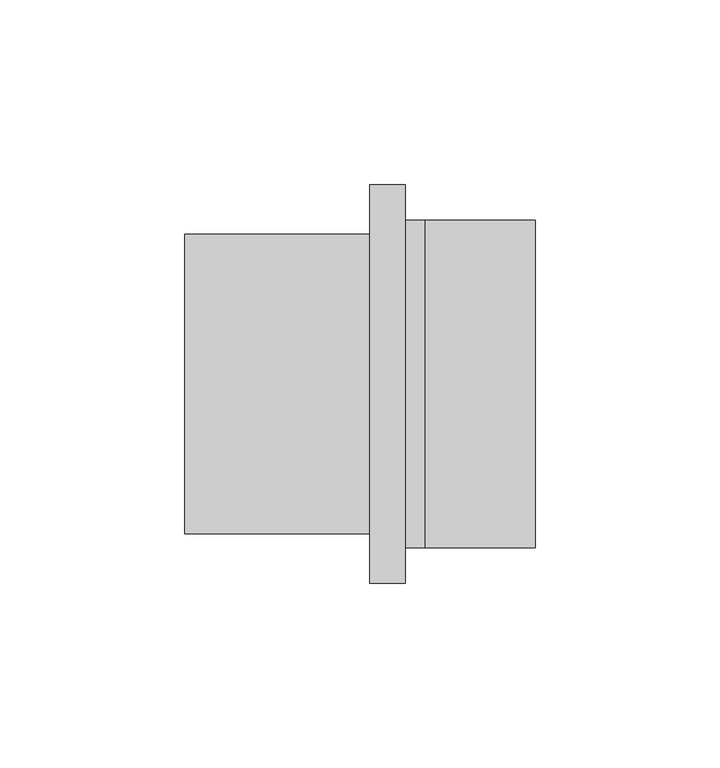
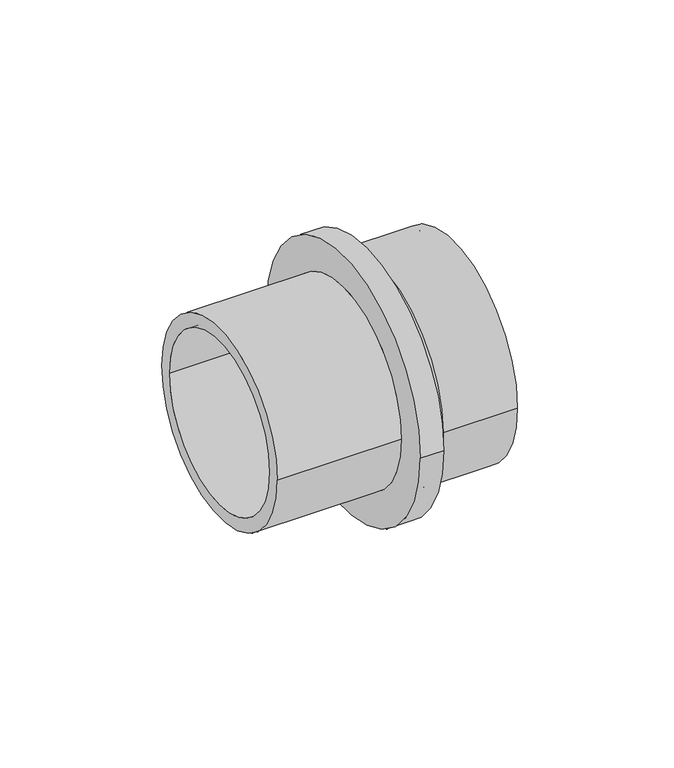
"""IFC4 building model written with IfcOpenShell, lengths in millimetres: pipe fitting geometry, Adapter with welding end : A welding RX."""

from ifc_helpers import new_model, si_unit, point, frame, origin, origin_2d, place, context, project, spatial, polyline, circle_curve, trimmed, segment, composite_curve, outline, extrude, source, transform, mapped, element, save
from ifc_brep_helpers import plane_surface, cylinder_surface, revolved_surface, advanced_brep


def pipe_fitting_44d2cd18(model_context):
    return source(origin(), model_context, "Body", "SolidModel", [
        advanced_brep(
        [(0.0, 44.4, 0.0), (0.0, -44.4, 0.0), (-5.3, -44.4, 0.0), (-5.3, 44.4, 0.0), (-5.3, 41.95, 0.0), (-5.3, -41.95, 0.0), (0.0, -41.95, 0.0), (0.0, 41.95, 0.0), (-65.0, 35.0, 0.0), (-65.0, -35.0, 0.0), (-5.3, -35.0, 0.0), (-5.3, 35.0, 0.0), (-14.8, 40.5, 0.0), (-14.8, -40.5, 0.0), (-65.0, -40.5, 0.0), (-65.0, 40.5, 0.0), (-5.3, 54.0, 0.0), (-5.3, -54.0, 0.0), (-14.8, -54.0, 0.0), (-14.8, 54.0, 0.0)],
        [
            (0, 1, circle_curve(frame((0.0, 0.0, 0.0), z_axis=(-1.0, 0.0, 0.0), x_axis=(0.0, -1.0, 0.0)), 44.4)),
            (1, 2),
            (2, 3, circle_curve(frame((-5.3, 0.0, 0.0), z_axis=(1.0, 0.0, 0.0), x_axis=(0.0, -1.0, 0.0)), 44.4)),
            (3, 0),
            (4, 5, circle_curve(frame((-5.3, 0.0, 0.0), z_axis=(-1.0, 0.0, 0.0), x_axis=(0.0, -1.0, 0.0)), 41.95)),
            (5, 6),
            (6, 7, circle_curve(frame((0.0, 0.0, 0.0), z_axis=(1.0, 0.0, 0.0), x_axis=(0.0, -1.0, 0.0)), 41.95)),
            (7, 4),
            (8, 9, circle_curve(frame((-65.0, 0.0, 0.0), z_axis=(-1.0, 0.0, 0.0), x_axis=(0.0, -1.0, 0.0)), 35.0)),
            (9, 10),
            (10, 11, circle_curve(frame((-5.3, 0.0, 0.0), z_axis=(1.0, 0.0, 0.0), x_axis=(0.0, -1.0, 0.0)), 35.0)),
            (11, 8),
            (12, 13, circle_curve(frame((-14.8, 0.0, 0.0), z_axis=(-1.0, 0.0, 0.0), x_axis=(0.0, -1.0, 0.0)), 40.5)),
            (13, 14),
            (14, 15, circle_curve(frame((-65.0, 0.0, 0.0), z_axis=(1.0, 0.0, 0.0), x_axis=(0.0, -1.0, 0.0)), 40.5)),
            (15, 12),
            (16, 17, circle_curve(frame((-5.3, 0.0, 0.0), z_axis=(-1.0, 0.0, 0.0), x_axis=(0.0, -1.0, 0.0)), 54.0)),
            (17, 18),
            (18, 19, circle_curve(frame((-14.8, 0.0, 0.0), z_axis=(1.0, 0.0, 0.0), x_axis=(0.0, -1.0, 0.0)), 54.0)),
            (19, 16),
            (16, 17, circle_curve(frame((-5.3, 0.0, 0.0), z_axis=(1.0, 0.0, 0.0), x_axis=(0.0, 1.0, 0.0)), 54.0)),
            (2, 3, circle_curve(frame((-5.3, 0.0, 0.0), z_axis=(-1.0, 0.0, 0.0), x_axis=(0.0, 1.0, 0.0)), 44.4)),
            (1, 0, circle_curve(frame((0.0, 0.0, 0.0), z_axis=(-1.0, 0.0, 0.0), x_axis=(0.0, 1.0, 0.0)), 44.4)),
            (6, 7, circle_curve(frame((0.0, 0.0, 0.0), z_axis=(-1.0, 0.0, 0.0), x_axis=(0.0, 1.0, 0.0)), 41.95)),
            (5, 4, circle_curve(frame((-5.3, 0.0, 0.0), z_axis=(-1.0, 0.0, 0.0), x_axis=(0.0, 1.0, 0.0)), 41.95)),
            (10, 11, circle_curve(frame((-5.3, 0.0, 0.0), z_axis=(-1.0, 0.0, 0.0), x_axis=(0.0, 1.0, 0.0)), 35.0)),
            (9, 8, circle_curve(frame((-65.0, 0.0, 0.0), z_axis=(-1.0, 0.0, 0.0), x_axis=(0.0, 1.0, 0.0)), 35.0)),
            (14, 15, circle_curve(frame((-65.0, 0.0, 0.0), z_axis=(-1.0, 0.0, 0.0), x_axis=(0.0, 1.0, 0.0)), 40.5)),
            (13, 12, circle_curve(frame((-14.8, 0.0, 0.0), z_axis=(-1.0, 0.0, 0.0), x_axis=(0.0, 1.0, 0.0)), 40.5)),
            (18, 19, circle_curve(frame((-14.8, 0.0, 0.0), z_axis=(-1.0, 0.0, 0.0), x_axis=(0.0, 1.0, 0.0)), 54.0)),
        ],
        [
            cylinder_surface(frame((0.0, 0.0, 0.0), z_axis=(1.0, 0.0, 0.0), x_axis=(0.0, -1.0, 0.0)), 44.4),
            revolved_surface(polyline([(0.0, -41.95, 0.0), (-5.3, -41.95, 0.0)]), (0.0, 0.0, 0.0), (1.0, 0.0, 0.0)),
            revolved_surface(polyline([(-5.3, -35.0, 0.0), (-65.0, -35.0, 0.0)]), (0.0, 0.0, 0.0), (1.0, 0.0, 0.0)),
            cylinder_surface(frame((0.0, 0.0, 0.0), z_axis=(1.0, 0.0, 0.0), x_axis=(0.0, -1.0, 0.0)), 40.5),
            cylinder_surface(frame((0.0, 0.0, 0.0), z_axis=(1.0, 0.0, 0.0), x_axis=(0.0, -1.0, 0.0)), 54.0),
            plane_surface(frame((-5.3, 0.0, 0.0), z_axis=(1.0, 0.0, 0.0), x_axis=(0.0, 1.0, 0.0))),
            cylinder_surface(frame((0.0, 0.0, 0.0), z_axis=(1.0, 0.0, 0.0), x_axis=(0.0, 1.0, 0.0)), 44.4),
            plane_surface(frame((0.0, 0.0, 0.0), z_axis=(1.0, 0.0, 0.0), x_axis=(0.0, 1.0, 0.0))),
            revolved_surface(polyline([(0.0, 41.95, 0.0), (-5.3, 41.95, 0.0)]), (0.0, 0.0, 0.0), (1.0, 0.0, 0.0)),
            revolved_surface(polyline([(-5.3, 35.0, 0.0), (-65.0, 35.0, 0.0)]), (0.0, 0.0, 0.0), (1.0, 0.0, 0.0)),
            plane_surface(frame((-65.0, 0.0, 0.0), z_axis=(-1.0, 0.0, 0.0), x_axis=(0.0, 1.0, 0.0))),
            cylinder_surface(frame((0.0, 0.0, 0.0), z_axis=(1.0, 0.0, 0.0), x_axis=(0.0, 1.0, 0.0)), 40.5),
            plane_surface(frame((-14.8, 0.0, 0.0), z_axis=(-1.0, 0.0, 0.0), x_axis=(0.0, 1.0, 0.0))),
            cylinder_surface(frame((0.0, 0.0, 0.0), z_axis=(1.0, 0.0, 0.0), x_axis=(0.0, 1.0, 0.0)), 54.0),
        ],
        [
            (0, [[1, 2, 3, 4]]),
            (1, [[5, 6, 7, 8]]),
            (2, [[9, 10, 11, 12]]),
            (3, [[13, 14, 15, 16]]),
            (4, [[17, 18, 19, 20]]),
            (5, [[21, -17], [22, -3]]),
            (6, [[23, -4, -22, -2]]),
            (7, [[-23, -1], [24, -7]]),
            (8, [[25, -8, -24, -6]]),
            (5, [[-25, -5], [26, -11]]),
            (9, [[27, -12, -26, -10]]),
            (10, [[28, -15], [-27, -9]]),
            (11, [[29, -16, -28, -14]]),
            (12, [[30, -19], [-29, -13]]),
            (13, [[-21, -20, -30, -18]]),
        ],
    ),
        extrude(outline(composite_curve([segment(trimmed(circle_curve(origin_2d(), 44.4), [point((-44.4, 0.0))], [point((44.4, 0.0))], False, "CARTESIAN"), True, "CONTINUOUS"), segment(trimmed(circle_curve(origin_2d(), 44.4), [point((44.4, 0.0))], [point((-44.4, 0.0))], False, "CARTESIAN"), True, "CONTINUOUS")], self_intersect=False), holes=[composite_curve([segment(trimmed(circle_curve(origin_2d(), 41.95), [point((41.95, 0.0))], [point((-41.95, 0.0))], True, "CARTESIAN"), True, "CONTINUOUS"), segment(trimmed(circle_curve(origin_2d(), 41.95), [point((-41.95, 0.0))], [point((41.95, 0.0))], True, "CARTESIAN"), True, "CONTINUOUS")], self_intersect=False)]), frame((0.0, 0.0, 0.0), z_axis=(1.0, 0.0, 0.0), x_axis=(0.0, 1.0, 0.0)), (0.0, 0.0, 1.0), 30.0),
    ])


if __name__ == "__main__":
    model = new_model("IFC4")
    model_context = context("Model", 3, world=origin())
    ifc_project = project(units=[si_unit("LENGTHUNIT", "METRE", prefix="MILLI")], contexts=[model_context])
    site = spatial("IfcSite", under=ifc_project)
    building = spatial("IfcBuilding", under=site)
    placement = place(None, origin())
    pipe_fitting_shape = pipe_fitting_44d2cd18(model_context)
    element("IfcPipeFitting", 1, ObjectType="Adapter with welding end : A welding RX", at=placement, inside=building, context=model_context, shape_type="MappedRepresentation", body=[
        mapped(pipe_fitting_shape, transform((0.0, 0.0, 0.0), x_axis=(1.0, 0.0, 0.0), y_axis=(0.0, 1.0, 0.0), z_axis=(0.0, 0.0, 1.0))),
    ])
    save(model, "model.ifc")
